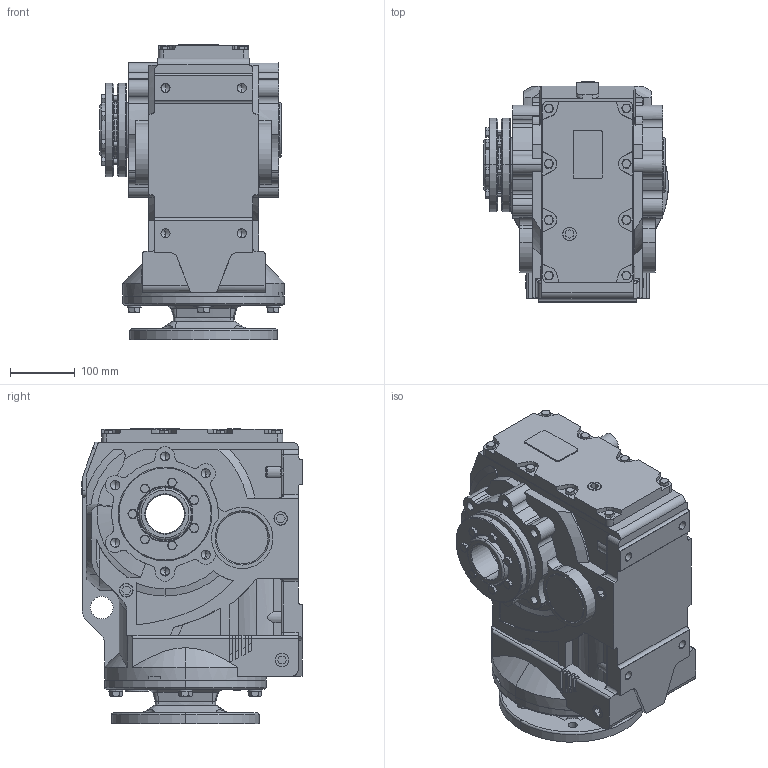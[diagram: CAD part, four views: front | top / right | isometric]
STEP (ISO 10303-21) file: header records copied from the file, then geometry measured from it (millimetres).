
FILE_DESCRIPTION (( 'STEP AP203' ), '1' );
FILE_NAME ('KAN87-182TC-B-POWER LOCK.STEP', '2020-11-25T03:11:51', ( 'Microsoft' ), ( 'Microsoft' ), 'SwSTEP 2.0', 'SolidWorks 2012', '' );
FILE_SCHEMA (( 'CONFIG_CONTROL_DESIGN' ));
Length unit declared in the file: millimetre
Products named in the file (1): KAN87-182TC-B-POWER LOCK
Bounding box: 286 x 340.5 x 458 mm (x, y, z)
Volume: 23063867.5 mm3; surface area: 974301.6 mm2
Topology: 2 solids, 28 shells, 1686 faces, 4268 edges, 2706 vertices
Faces by surface type: plane 678, cylinder 489, cone 330, bspline 143, torus 46
Entity records: 63028 total; most frequent: CARTESIAN_POINT 23149, ORIENTED_EDGE 8404, DIRECTION 8042, EDGE_CURVE 4202, AXIS2_PLACEMENT_3D 2963, VERTEX_POINT 2706, LINE 2116, VECTOR 2116
